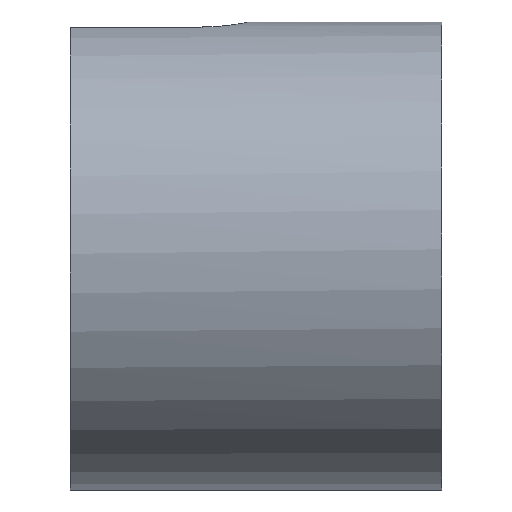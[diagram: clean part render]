
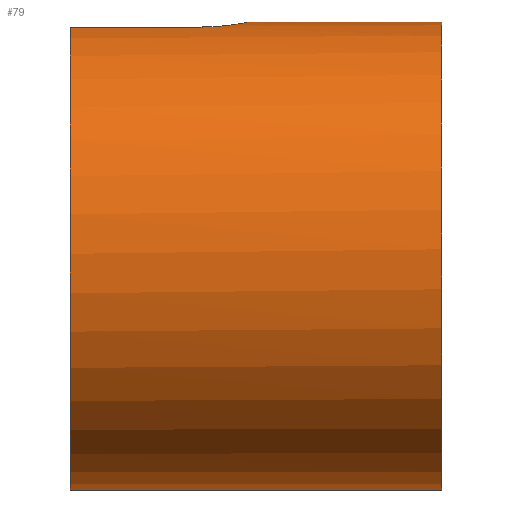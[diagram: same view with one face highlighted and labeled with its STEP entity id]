
A CAD part, front view. The second image highlights one B-rep face of the part: STEP entity #79.
In plain terms, the highlighted cylindrical face has radius 17 mm (diameter 34 mm), a partial arc.
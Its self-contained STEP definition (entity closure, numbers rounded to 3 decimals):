
#79 = ADVANCED_FACE( '', ( #94 ), #95, .T. );
#94 = FACE_OUTER_BOUND( '', #114, .T. );
#95 = CYLINDRICAL_SURFACE( '', #115, 17. );
#114 = EDGE_LOOP( '', ( #158, #159, #160, #161, #162, #163, #164, #165 ) );
#115 = AXIS2_PLACEMENT_3D( '', #166, #167, #168 );
#158 = ORIENTED_EDGE( '', *, *, #220, .F. );
#159 = ORIENTED_EDGE( '', *, *, #219, .T. );
#160 = ORIENTED_EDGE( '', *, *, #215, .F. );
#161 = ORIENTED_EDGE( '', *, *, #221, .F. );
#162 = ORIENTED_EDGE( '', *, *, #222, .T. );
#163 = ORIENTED_EDGE( '', *, *, #223, .T. );
#164 = ORIENTED_EDGE( '', *, *, #224, .T. );
#165 = ORIENTED_EDGE( '', *, *, #205, .F. );
#166 = CARTESIAN_POINT( '', ( -60., 0., 0. ) );
#167 = DIRECTION( '', ( 1., 0., 0. ) );
#168 = DIRECTION( '', ( 0., 0., 1. ) );
#205 = EDGE_CURVE( '', #228, #231, #232, .T. );
#215 = EDGE_CURVE( '', #249, #250, #251, .F. );
#219 = EDGE_CURVE( '', #254, #250, #256, .T. );
#220 = EDGE_CURVE( '', #254, #228, #257, .T. );
#221 = EDGE_CURVE( '', #258, #249, #259, .T. );
#222 = EDGE_CURVE( '', #258, #260, #261, .F. );
#223 = EDGE_CURVE( '', #260, #262, #263, .T. );
#224 = EDGE_CURVE( '', #262, #231, #264, .T. );
#228 = VERTEX_POINT( '', #268 );
#231 = VERTEX_POINT( '', #272 );
#232 = CIRCLE( '', #273, 17. );
#249 = VERTEX_POINT( '', #348 );
#250 = VERTEX_POINT( '', #349 );
#251 = LINE( '', #350, #351 );
#254 = VERTEX_POINT( '', #356 );
#256 = CIRCLE( '', #359, 17. );
#257 = LINE( '', #360, #361 );
#258 = VERTEX_POINT( '', #362 );
#259 = CIRCLE( '', #363, 17. );
#260 = VERTEX_POINT( '', #364 );
#261 = LINE( '', #365, #366 );
#262 = VERTEX_POINT( '', #367 );
#263 = B_SPLINE_CURVE_WITH_KNOTS( '', 3, ( #368, #369, #370, #371, #372, #373, #374, #375, #376, #377, #378, #379, #380, #381, #382, #383, #384, #385, #386, #387, #388, #389, #390, #391, #392, #393, #394, #395, #396, #397, #398, #399, #400, #401 ), .UNSPECIFIED., .F., .F., ( 4, 2, 2, 2, 2, 2, 2, 2, 2, 2, 2, 2, 2, 2, 2, 2, 4 ), ( 0., 0.001, 0.001, 0.002, 0.003, 0.003, 0.004, 0.005, 0.005, 0.006, 0.007, 0.008, 0.008, 0.009, 0.01, 0.01, 0.011 ), .UNSPECIFIED. );
#264 = LINE( '', #402, #403 );
#268 = CARTESIAN_POINT( '', ( -27., -1., -16.971 ) );
#272 = CARTESIAN_POINT( '', ( -27., -3.5, 16.636 ) );
#273 = AXIS2_PLACEMENT_3D( '', #411, #412, #413 );
#348 = CARTESIAN_POINT( '', ( -27., 1., -16.971 ) );
#349 = CARTESIAN_POINT( '', ( 0., 1., -16.971 ) );
#350 = CARTESIAN_POINT( '', ( -60., 1., -16.971 ) );
#351 = VECTOR( '', #424, 1000. );
#356 = CARTESIAN_POINT( '', ( 0., -1., -16.971 ) );
#359 = AXIS2_PLACEMENT_3D( '', #428, #429, #430 );
#360 = CARTESIAN_POINT( '', ( -60., -1., -16.971 ) );
#361 = VECTOR( '', #431, 1000. );
#362 = CARTESIAN_POINT( '', ( -27., 3.5, 16.636 ) );
#363 = AXIS2_PLACEMENT_3D( '', #432, #433, #434 );
#364 = CARTESIAN_POINT( '', ( -17.5, 3.5, 16.636 ) );
#365 = CARTESIAN_POINT( '', ( -60., 3.5, 16.636 ) );
#366 = VECTOR( '', #435, 1000. );
#367 = CARTESIAN_POINT( '', ( -17.5, -3.5, 16.636 ) );
#368 = CARTESIAN_POINT( '', ( -17.5, 3.5, 16.636 ) );
#369 = CARTESIAN_POINT( '', ( -17.268, 3.5, 16.636 ) );
#370 = CARTESIAN_POINT( '', ( -17.04, 3.477, 16.641 ) );
#371 = CARTESIAN_POINT( '', ( -16.592, 3.388, 16.659 ) );
#372 = CARTESIAN_POINT( '', ( -16.37, 3.32, 16.673 ) );
#373 = CARTESIAN_POINT( '', ( -15.946, 3.145, 16.707 ) );
#374 = CARTESIAN_POINT( '', ( -15.745, 3.037, 16.727 ) );
#375 = CARTESIAN_POINT( '', ( -15.365, 2.783, 16.771 ) );
#376 = CARTESIAN_POINT( '', ( -15.186, 2.636, 16.795 ) );
#377 = CARTESIAN_POINT( '', ( -14.864, 2.314, 16.843 ) );
#378 = CARTESIAN_POINT( '', ( -14.72, 2.138, 16.866 ) );
#379 = CARTESIAN_POINT( '', ( -14.464, 1.756, 16.91 ) );
#380 = CARTESIAN_POINT( '', ( -14.355, 1.553, 16.93 ) );
#381 = CARTESIAN_POINT( '', ( -14.18, 1.132, 16.964 ) );
#382 = CARTESIAN_POINT( '', ( -14.113, 0.911, 16.977 ) );
#383 = CARTESIAN_POINT( '', ( -14.023, 0.459, 16.995 ) );
#384 = CARTESIAN_POINT( '', ( -14., 0.232, 17. ) );
#385 = CARTESIAN_POINT( '', ( -14., -0.226, 17. ) );
#386 = CARTESIAN_POINT( '', ( -14.023, -0.459, 16.995 ) );
#387 = CARTESIAN_POINT( '', ( -14.112, -0.908, 16.977 ) );
#388 = CARTESIAN_POINT( '', ( -14.178, -1.126, 16.964 ) );
#389 = CARTESIAN_POINT( '', ( -14.354, -1.551, 16.93 ) );
#390 = CARTESIAN_POINT( '', ( -14.463, -1.755, 16.91 ) );
#391 = CARTESIAN_POINT( '', ( -14.716, -2.133, 16.867 ) );
#392 = CARTESIAN_POINT( '', ( -14.861, -2.311, 16.843 ) );
#393 = CARTESIAN_POINT( '', ( -15.186, -2.636, 16.795 ) );
#394 = CARTESIAN_POINT( '', ( -15.362, -2.781, 16.772 ) );
#395 = CARTESIAN_POINT( '', ( -15.741, -3.034, 16.728 ) );
#396 = CARTESIAN_POINT( '', ( -15.945, -3.144, 16.707 ) );
#397 = CARTESIAN_POINT( '', ( -16.368, -3.32, 16.673 ) );
#398 = CARTESIAN_POINT( '', ( -16.586, -3.386, 16.659 ) );
#399 = CARTESIAN_POINT( '', ( -17.036, -3.477, 16.641 ) );
#400 = CARTESIAN_POINT( '', ( -17.268, -3.5, 16.636 ) );
#401 = CARTESIAN_POINT( '', ( -17.5, -3.5, 16.636 ) );
#402 = CARTESIAN_POINT( '', ( -60., -3.5, 16.636 ) );
#403 = VECTOR( '', #436, 1000. );
#411 = CARTESIAN_POINT( '', ( -27., 0., 0. ) );
#412 = DIRECTION( '', ( -1., 0., 0. ) );
#413 = DIRECTION( '', ( 0., 0., 1. ) );
#424 = DIRECTION( '', ( -1., 0., 0. ) );
#428 = CARTESIAN_POINT( '', ( 0., 0., 0. ) );
#429 = DIRECTION( '', ( -1., 0., 0. ) );
#430 = DIRECTION( '', ( 0., 0., 1. ) );
#431 = DIRECTION( '', ( -1., 0., 0. ) );
#432 = CARTESIAN_POINT( '', ( -27., 0., 0. ) );
#433 = DIRECTION( '', ( -1., 0., 0. ) );
#434 = DIRECTION( '', ( 0., 0., 1. ) );
#435 = DIRECTION( '', ( -1., 0., 0. ) );
#436 = DIRECTION( '', ( -1., 0., 0. ) );
